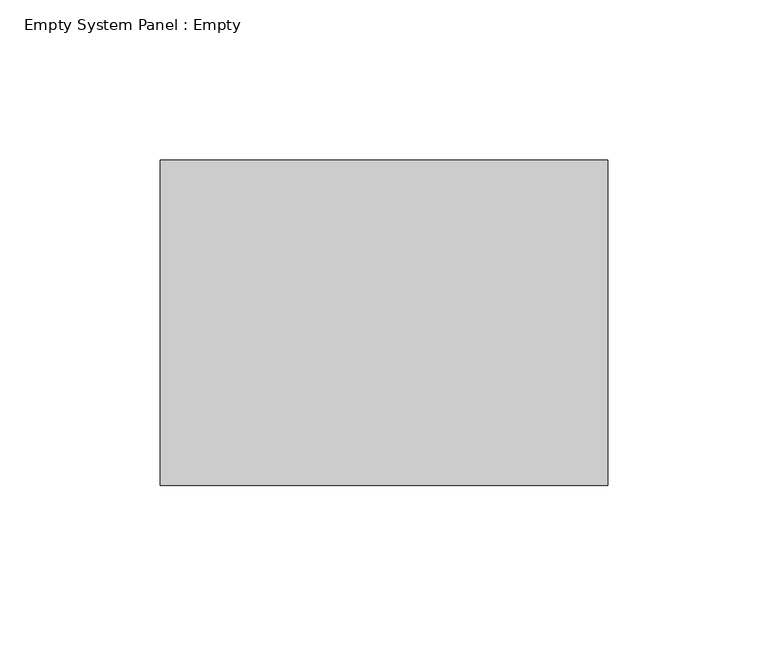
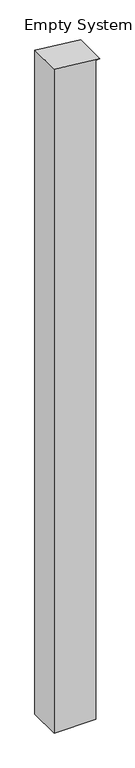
"""IFC4 building model written with IfcOpenShell, lengths in millimetres: plate geometry, Empty System Panel : Empty."""

from ifc_helpers import new_model, si_unit, frame, origin, place, context, project, spatial, polyline, outline, extrude, source, transform, mapped, element, save


def empty_system_panel_empty_161c170f(model_context):
    return source(origin(), model_context, "Body", "SweptSolid", [
        extrude(outline(polyline([(0.0, -69.85), (0.0, 57.15), (2127.7128661, 57.15), (2127.7128661, 69.85), (2143.3380561, -69.85), (0.0, -69.85)])), frame((0.0, -50.8, 0.0), z_axis=(0.0, 1.0, 0.0), x_axis=(0.0, 0.0, 1.0)), (0.0, 0.0, 1.0), 101.6),
    ])


if __name__ == "__main__":
    model = new_model("IFC4")
    model_context = context("Model", 3, world=origin())
    ifc_project = project(units=[si_unit("LENGTHUNIT", "METRE", prefix="MILLI")], contexts=[model_context])
    site = spatial("IfcSite", under=ifc_project)
    building = spatial("IfcBuilding", under=site)
    placement = place(None, origin())
    empty_system_panel_empty_shape = empty_system_panel_empty_161c170f(model_context)
    element("IfcPlate", 1, ObjectType="Empty System Panel : Empty", at=placement, inside=building, context=model_context, shape_type="MappedRepresentation", body=[
        mapped(empty_system_panel_empty_shape, transform((0.0, 0.0, 0.0), x_axis=(1.0, 0.0, 0.0), y_axis=(0.0, 1.0, 0.0), z_axis=(0.0, 0.0, 1.0))),
    ])
    save(model, "model.ifc")
